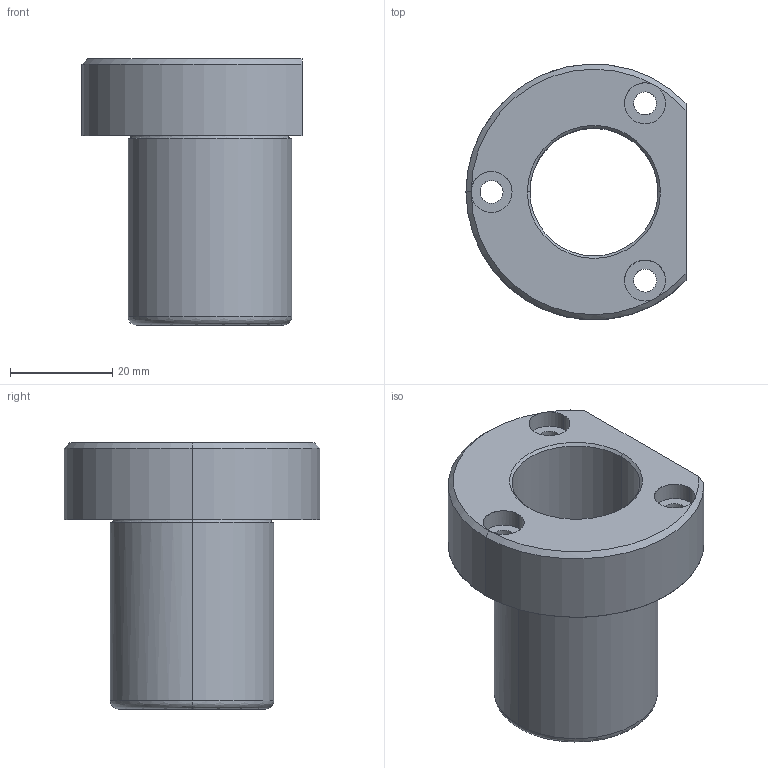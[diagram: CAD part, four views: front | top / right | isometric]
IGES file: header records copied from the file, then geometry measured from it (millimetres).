
Start section: START RECORD GO HERE.
Global section: file name: 737-19.igs; native system: DASSAULT SYSTEMES CATIA V5 R20 - www.3ds.com; preprocessor: CATIA Version 5 Release 20 ; author: Utente; organization: NB04-ASUS; date: 20210117.182410; units: millimetre
Bounding box: 43 x 49.97 x 52 mm (x, y, z)
Surface area: 13342.2 mm2 (no closed solid volume)
Topology: 0 solids, 0 shells, 37 faces, 172 edges, 172 vertices
Faces by surface type: revolution 30, plane 7
